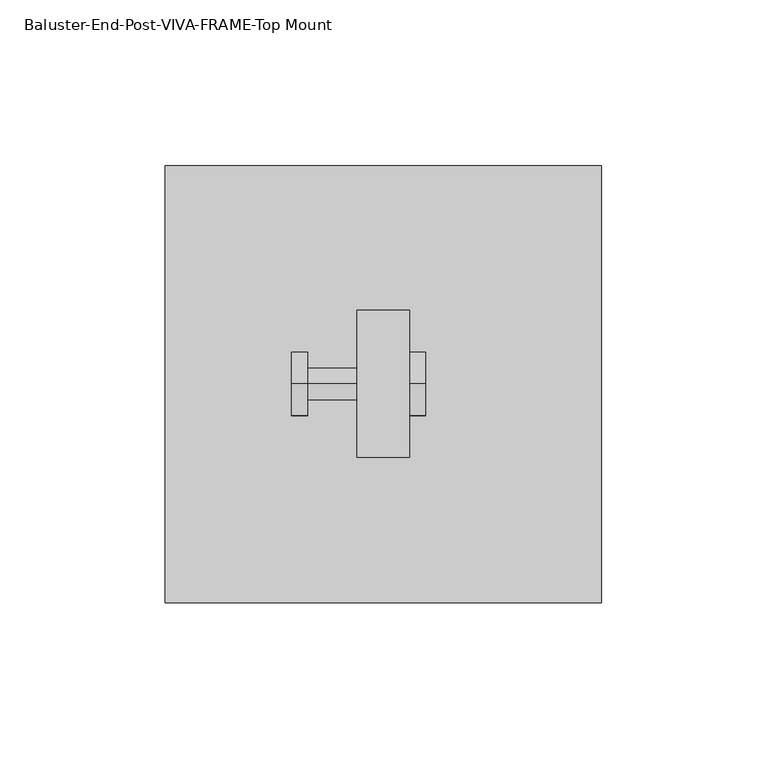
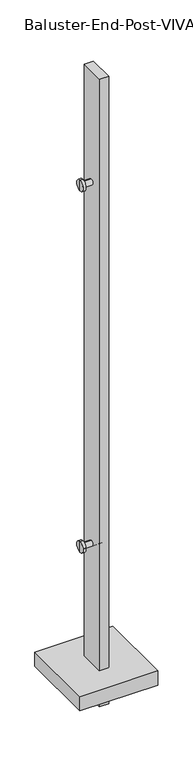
"""IFC4 building model written with IfcOpenShell, lengths in millimetres: proxy geometry, Baluster-End-Post-VIVA-FRAME-Top Mount : ANCHORED TO CONCRETE_TOP MOUNT FOLD_STRAIGHT."""

from ifc_helpers import new_model, si_unit, frame, origin, place, context, project, spatial, polyline, circle_curve, outline, extrude, source, transform, mapped, element, save
from ifc_brep_helpers import plane_surface, cylinder_surface, advanced_brep


def baluster_end_post_viva_frame_top_mount_8495f7c5(model_context):
    return source(origin(), model_context, "Body", "SolidModel", [
        extrude(outline(polyline([(7.9375, -78.2802567), (7.9375, -122.7302567), (-7.9375, -122.7302567), (-7.9375, -78.2802567), (7.9375, -78.2802567)])), frame((0.0, 0.0, -39.2093072), z_axis=(0.0, 0.0, 1.0), x_axis=(1.0, 0.0, 0.0)), (0.0, 0.0, 1.0), 1125.3782846),
        advanced_brep(
        [(-27.7749, -100.5078, 231.7496), (-27.7749, -100.5078, 250.8504), (-27.7749, -100.5078, 241.3), (-22.9997, -100.5078, 231.7496), (-22.9997, -100.5078, 250.8504), (-22.9997, -100.5078, 236.5248), (-22.9997, -100.5078, 246.0752), (7.9375, -100.5078, 236.5248), (7.9375, -100.5078, 246.0752), (7.9375, -100.5078, 231.7496), (7.9375, -100.5078, 250.8504), (12.7127, -100.5078, 231.7496), (12.7127, -100.5078, 250.8504), (12.7127, -100.5078, 241.3)],
        [
            (0, 1, circle_curve(frame((-27.7749, -100.5078, 241.3), z_axis=(-1.0, 0.0, 0.0), x_axis=(0.0, 0.0, 1.0)), 9.5504)),
            (1, 2),
            (2, 0),
            (1, 0, circle_curve(frame((-27.7749, -100.5078, 241.3), z_axis=(-1.0, 0.0, 0.0), x_axis=(0.0, 0.0, 1.0)), 9.5504)),
            (3, 4, circle_curve(frame((-22.9997, -100.5078, 241.3), z_axis=(-1.0, 0.0, 0.0), x_axis=(0.0, 0.0, 1.0)), 9.5504)),
            (4, 1),
            (0, 3),
            (4, 3, circle_curve(frame((-22.9997, -100.5078, 241.3), z_axis=(-1.0, 0.0, 0.0), x_axis=(0.0, 0.0, 1.0)), 9.5504)),
            (5, 6, circle_curve(frame((-22.9997, -100.5078, 241.3), z_axis=(-1.0, 0.0, 0.0), x_axis=(0.0, 0.0, 1.0)), 4.7752)),
            (6, 4),
            (3, 5),
            (6, 5, circle_curve(frame((-22.9997, -100.5078, 241.3), z_axis=(-1.0, 0.0, 0.0), x_axis=(0.0, 0.0, 1.0)), 4.7752)),
            (7, 8, circle_curve(frame((7.9375, -100.5078, 241.3), z_axis=(-1.0, 0.0, 0.0), x_axis=(0.0, 0.0, 1.0)), 4.7752)),
            (8, 6),
            (5, 7),
            (8, 7, circle_curve(frame((7.9375, -100.5078, 241.3), z_axis=(-1.0, 0.0, 0.0), x_axis=(0.0, 0.0, 1.0)), 4.7752)),
            (9, 10, circle_curve(frame((7.9375, -100.5078, 241.3), z_axis=(-1.0, 0.0, 0.0), x_axis=(0.0, 0.0, 1.0)), 9.5504)),
            (10, 8),
            (7, 9),
            (10, 9, circle_curve(frame((7.9375, -100.5078, 241.3), z_axis=(-1.0, 0.0, 0.0), x_axis=(0.0, 0.0, 1.0)), 9.5504)),
            (11, 12, circle_curve(frame((12.7127, -100.5078, 241.3), z_axis=(-1.0, 0.0, 0.0), x_axis=(0.0, 0.0, 1.0)), 9.5504)),
            (12, 10),
            (9, 11),
            (12, 11, circle_curve(frame((12.7127, -100.5078, 241.3), z_axis=(-1.0, 0.0, 0.0), x_axis=(0.0, 0.0, 1.0)), 9.5504)),
            (13, 12),
            (11, 13),
        ],
        [
            plane_surface(frame((-27.7749, -100.5078, 241.3), z_axis=(-1.0, 0.0, 0.0), x_axis=(0.0, 0.0, 1.0))),
            cylinder_surface(frame((-3419.3552571, -100.5078, 241.3), z_axis=(1.0, 0.0, 0.0), x_axis=(0.0, 0.0, 1.0)), 9.5504),
            plane_surface(frame((-22.9997, -100.5078, 241.3), z_axis=(1.0, 0.0, 0.0), x_axis=(0.0, 0.0, 1.0))),
            cylinder_surface(frame((-3419.3552571, -100.5078, 241.3), z_axis=(1.0, 0.0, 0.0), x_axis=(0.0, 0.0, 1.0)), 4.7752),
            plane_surface(frame((7.9375, -100.5078, 241.3), z_axis=(-1.0, 0.0, 0.0), x_axis=(0.0, 0.0, 1.0))),
            plane_surface(frame((12.7127, -100.5078, 241.3), z_axis=(1.0, 0.0, 0.0), x_axis=(0.0, 0.0, 1.0))),
        ],
        [
            (0, [[1, 2, 3]]),
            (0, [[4, -3, -2]]),
            (1, [[5, 6, -1, 7]]),
            (1, [[8, -7, -4, -6]]),
            (2, [[9, 10, -5, 11]]),
            (2, [[12, -11, -8, -10]]),
            (3, [[13, 14, -9, 15]]),
            (3, [[16, -15, -12, -14]]),
            (4, [[17, 18, -13, 19]]),
            (4, [[20, -19, -16, -18]]),
            (1, [[21, 22, -17, 23]]),
            (1, [[24, -23, -20, -22]]),
            (5, [[25, -21, 26]]),
            (5, [[-26, -24, -25]]),
        ],
    ),
        advanced_brep(
        [(-27.7749, -100.5078, 879.4559555), (-27.7749, -100.5078, 898.5567555), (-27.7749, -100.5078, 889.0063555), (-22.9997, -100.5078, 879.4559555), (-22.9997, -100.5078, 898.5567555), (-22.9997, -100.5078, 884.2311555), (-22.9997, -100.5078, 893.7815555), (7.9375, -100.5078, 884.2311555), (7.9375, -100.5078, 893.7815555), (7.9375, -100.5078, 879.4559555), (7.9375, -100.5078, 898.5567555), (12.7127, -100.5078, 879.4559555), (12.7127, -100.5078, 898.5567555), (12.7127, -100.5078, 889.0063555)],
        [
            (0, 1, circle_curve(frame((-27.7749, -100.5078, 889.0063555), z_axis=(-1.0, 0.0, 0.0), x_axis=(0.0, 0.0, 1.0)), 9.5504)),
            (1, 2),
            (2, 0),
            (1, 0, circle_curve(frame((-27.7749, -100.5078, 889.0063555), z_axis=(-1.0, 0.0, 0.0), x_axis=(0.0, 0.0, 1.0)), 9.5504)),
            (3, 4, circle_curve(frame((-22.9997, -100.5078, 889.0063555), z_axis=(-1.0, 0.0, 0.0), x_axis=(0.0, 0.0, 1.0)), 9.5504)),
            (4, 1),
            (0, 3),
            (4, 3, circle_curve(frame((-22.9997, -100.5078, 889.0063555), z_axis=(-1.0, 0.0, 0.0), x_axis=(0.0, 0.0, 1.0)), 9.5504)),
            (5, 6, circle_curve(frame((-22.9997, -100.5078, 889.0063555), z_axis=(-1.0, 0.0, 0.0), x_axis=(0.0, 0.0, 1.0)), 4.7752)),
            (6, 4),
            (3, 5),
            (6, 5, circle_curve(frame((-22.9997, -100.5078, 889.0063555), z_axis=(-1.0, 0.0, 0.0), x_axis=(0.0, 0.0, 1.0)), 4.7752)),
            (7, 8, circle_curve(frame((7.9375, -100.5078, 889.0063555), z_axis=(-1.0, 0.0, 0.0), x_axis=(0.0, 0.0, 1.0)), 4.7752)),
            (8, 6),
            (5, 7),
            (8, 7, circle_curve(frame((7.9375, -100.5078, 889.0063555), z_axis=(-1.0, 0.0, 0.0), x_axis=(0.0, 0.0, 1.0)), 4.7752)),
            (9, 10, circle_curve(frame((7.9375, -100.5078, 889.0063555), z_axis=(-1.0, 0.0, 0.0), x_axis=(0.0, 0.0, 1.0)), 9.5504)),
            (10, 8),
            (7, 9),
            (10, 9, circle_curve(frame((7.9375, -100.5078, 889.0063555), z_axis=(-1.0, 0.0, 0.0), x_axis=(0.0, 0.0, 1.0)), 9.5504)),
            (11, 12, circle_curve(frame((12.7127, -100.5078, 889.0063555), z_axis=(-1.0, 0.0, 0.0), x_axis=(0.0, 0.0, 1.0)), 9.5504)),
            (12, 10),
            (9, 11),
            (12, 11, circle_curve(frame((12.7127, -100.5078, 889.0063555), z_axis=(-1.0, 0.0, 0.0), x_axis=(0.0, 0.0, 1.0)), 9.5504)),
            (13, 12),
            (11, 13),
        ],
        [
            plane_surface(frame((-27.7749, -100.5078, 889.0063555), z_axis=(-1.0, 0.0, 0.0), x_axis=(0.0, 0.0, 1.0))),
            cylinder_surface(frame((-3419.3552571, -100.5078, 889.0063555), z_axis=(1.0, 0.0, 0.0), x_axis=(0.0, 0.0, 1.0)), 9.5504),
            plane_surface(frame((-22.9997, -100.5078, 889.0063555), z_axis=(1.0, 0.0, 0.0), x_axis=(0.0, 0.0, 1.0))),
            cylinder_surface(frame((-3419.3552571, -100.5078, 889.0063555), z_axis=(1.0, 0.0, 0.0), x_axis=(0.0, 0.0, 1.0)), 4.7752),
            plane_surface(frame((7.9375, -100.5078, 889.0063555), z_axis=(-1.0, 0.0, 0.0), x_axis=(0.0, 0.0, 1.0))),
            plane_surface(frame((12.7127, -100.5078, 889.0063555), z_axis=(1.0, 0.0, 0.0), x_axis=(0.0, 0.0, 1.0))),
        ],
        [
            (0, [[1, 2, 3]]),
            (0, [[4, -3, -2]]),
            (1, [[5, 6, -1, 7]]),
            (1, [[8, -7, -4, -6]]),
            (2, [[9, 10, -5, 11]]),
            (2, [[12, -11, -8, -10]]),
            (3, [[13, 14, -9, 15]]),
            (3, [[16, -15, -12, -14]]),
            (4, [[17, 18, -13, 19]]),
            (4, [[20, -19, -16, -18]]),
            (1, [[21, 22, -17, 23]]),
            (1, [[24, -23, -20, -22]]),
            (5, [[25, -21, 26]]),
            (5, [[-26, -24, -25]]),
        ],
    ),
        extrude(outline(polyline([(-66.0, -34.5052567), (66.0, -34.5052567), (66.0, -166.5052567), (-66.0, -166.5052567), (-66.0, -34.5052567)])), frame((0.0, 0.0, 0.5143555), z_axis=(0.0, 0.0, 1.0), x_axis=(1.0, 0.0, 0.0)), (0.0, 0.0, 1.0), 25.4),
    ])


if __name__ == "__main__":
    model = new_model("IFC4")
    model_context = context("Model", 3, world=origin())
    ifc_project = project(units=[si_unit("LENGTHUNIT", "METRE", prefix="MILLI")], contexts=[model_context])
    site = spatial("IfcSite", under=ifc_project)
    building = spatial("IfcBuilding", under=site)
    placement = place(None, origin())
    baluster_end_post_viva_frame_top_mount_shape = baluster_end_post_viva_frame_top_mount_8495f7c5(model_context)
    element("IfcBuildingElementProxy", 1, Name="Baluster-End-Post-VIVA-FRAME-Top Mount : ANCHORED TO CONCRETE_TOP MOUNT FOLD_STRAIGHT", ObjectType="Baluster-End-Post-VIVA-FRAME-Top Mount : ANCHORED TO CONCRETE_TOP MOUNT FOLD_STRAIGHT", at=placement, inside=building, context=model_context, shape_type="MappedRepresentation", body=[
        mapped(baluster_end_post_viva_frame_top_mount_shape, transform((0.0, 0.0, 0.0), x_axis=(1.0, 0.0, 0.0), y_axis=(0.0, 1.0, 0.0), z_axis=(0.0, 0.0, 1.0))),
    ])
    save(model, "model.ifc")
